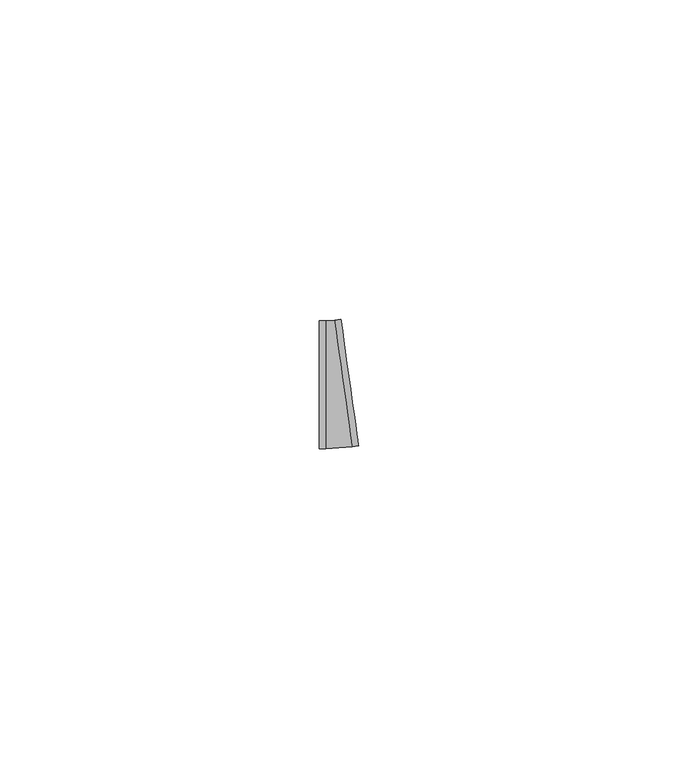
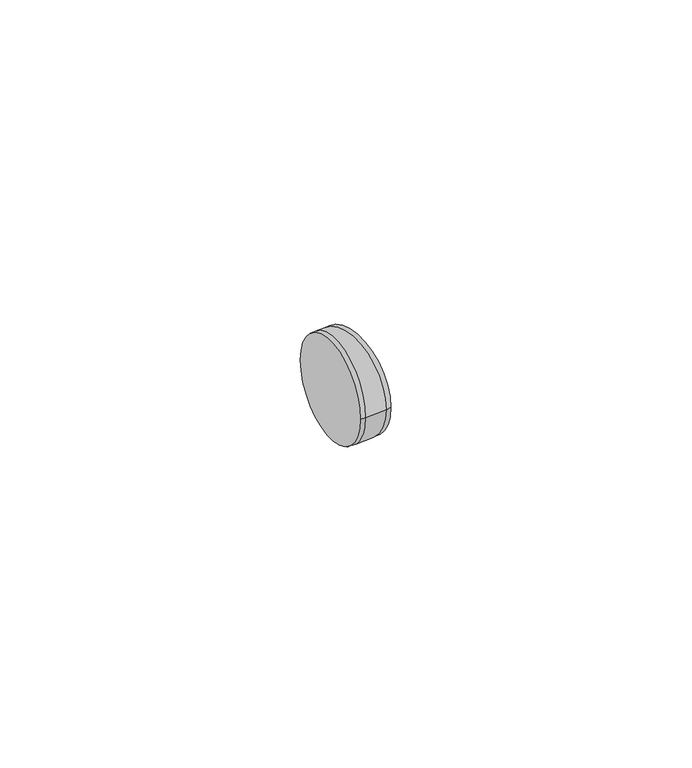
"""IFC4 building model written with IfcOpenShell, lengths in millimetres: cable carrier fitting geometry, ADSK_Поворот_Минимальный размер : Неспецифицируемый."""

from ifc_helpers import new_model, si_unit, point, frame, origin, place, context, project, spatial, circle_curve, ellipse_curve, trimmed, source, transform, mapped, element, save
from ifc_brep_helpers import plane_surface, cylinder_surface, revolved_surface, advanced_brep


def cable_carrier_fitting_f46455be(model_context):
    return source(origin(), model_context, "Body", "AdvancedBrep", [
        advanced_brep(
        [(-2.385439, -10.0, 0.0), (-2.385439, 10.0, 0.0), (-1.385439, -10.0, 0.0), (-1.385439, 10.0, 0.0), (-0.0066164, 10.0955137, 0.0), (2.7510288, -9.7134588, 0.0), (3.7414774, -9.5755766, 0.0), (0.9838322, 10.233396, 0.0)],
        [
            (0, 1, circle_curve(frame((-2.385439, 0.0, 0.0), z_axis=(-1.0, -4.92260399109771e-12, 0.0), x_axis=(-4.92260399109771e-12, 1.0, 0.0)), 10.0)),
            (1, 0, circle_curve(frame((-2.385439, 0.0, 0.0), z_axis=(-1.0, -4.92260399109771e-12, 0.0), x_axis=(-4.92260399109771e-12, 1.0, 0.0)), 10.0)),
            (0, 2),
            (2, 3, circle_curve(frame((-1.385439, 0.0, 0.0), z_axis=(-1.0, -4.92260399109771e-12, 0.0), x_axis=(-4.92260399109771e-12, 1.0, 0.0)), 10.0)),
            (3, 1),
            (3, 2, circle_curve(frame((-1.385439, 0.0, 0.0), z_axis=(-1.0, -4.92260399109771e-12, 0.0), x_axis=(-4.92260399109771e-12, 1.0, 0.0)), 10.0)),
            (4, 3, circle_curve(frame((-1.385439, 20.0, 0.0), z_axis=(0.0, 0.0, -1.0), x_axis=(0.0, -1.0, 0.0)), 10.0)),
            (2, 5, circle_curve(frame((-1.385439, 20.0, 0.0), z_axis=(0.0, 0.0, 1.0), x_axis=(0.0, -1.0, 0.0)), 30.0)),
            (5, 4, circle_curve(frame((1.3722062, 0.1910275, 0.0), z_axis=(-0.9904486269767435, -0.137882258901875, 0.0), x_axis=(-0.137882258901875, 0.9904486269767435, 0.0)), 10.0)),
            (4, 5, circle_curve(frame((1.3722062, 0.1910275, 0.0), z_axis=(-0.9904486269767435, -0.13788225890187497, 0.0), x_axis=(-0.13788225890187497, 0.9904486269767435, 0.0)), 10.0)),
            (6, 7, circle_curve(frame((2.3626548, 0.3289097, 0.0), z_axis=(0.9904486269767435, 0.13788225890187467, 0.0), x_axis=(-0.13788225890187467, 0.9904486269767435, 0.0)), 10.0)),
            (7, 6, circle_curve(frame((2.3626548, 0.3289097, 0.0), z_axis=(0.9904486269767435, 0.13788225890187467, 0.0), x_axis=(-0.13788225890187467, 0.9904486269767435, 0.0)), 10.0)),
            (5, 6),
            (7, 4),
        ],
        [
            plane_surface(frame((-2.385439, 0.0, 0.0), z_axis=(-1.0, -4.92260399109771e-12, 0.0), x_axis=(0.0, 0.0, 1.0))),
            cylinder_surface(frame((-2.385439, 0.0, 0.0), z_axis=(-1.0, -4.92260399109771e-12, 0.0), x_axis=(-4.92260399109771e-12, 1.0, 0.0)), 10.0),
            revolved_surface(trimmed(ellipse_curve(frame((-1.385439, 0.0, 0.0), z_axis=(-1.0, 0.0, 0.0), x_axis=(0.0, 1.0, 0.0)), 10.0, 10.0), [point((-1.385439, -10.0, 0.0))], [point((-1.385439, 10.0, 0.0))], True, "CARTESIAN"), (-1.385439, 20.0, 0.0), (0.0, 0.0, 1.0)),
            revolved_surface(trimmed(ellipse_curve(frame((-1.385439, 0.0, 0.0), z_axis=(-1.0, 0.0, 0.0), x_axis=(0.0, 1.0, 0.0)), 10.0, 10.0), [point((-1.385439, 10.0, 0.0))], [point((-1.385439, -10.0, 0.0))], True, "CARTESIAN"), (-1.385439, 20.0, 0.0), (0.0, 0.0, 1.0)),
            plane_surface(frame((2.3626548, 0.3289097, 0.0), z_axis=(0.9904486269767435, 0.1378822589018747, 0.0), x_axis=(0.0, 0.0, 1.0))),
            cylinder_surface(frame((1.3722062, 0.1910275, 0.0), z_axis=(-0.9904486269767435, -0.13788225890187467, 0.0), x_axis=(-0.13788225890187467, 0.9904486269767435, 0.0)), 10.0),
        ],
        [
            (0, [[1, 2]]),
            (1, [[-1, 3, 4, 5]]),
            (1, [[-2, -5, 6, -3]]),
            (2, [[7, -4, 8, 9]]),
            (3, [[-8, -6, -7, 10]]),
            (4, [[11, 12]]),
            (5, [[-9, 13, -12, 14]]),
            (5, [[-10, -14, -11, -13]]),
        ],
    ),
    ])


if __name__ == "__main__":
    model = new_model("IFC4")
    model_context = context("Model", 3, world=origin())
    ifc_project = project(units=[si_unit("LENGTHUNIT", "METRE", prefix="MILLI")], contexts=[model_context])
    site = spatial("IfcSite", under=ifc_project)
    building = spatial("IfcBuilding", under=site)
    placement = place(None, origin())
    cable_carrier_fitting_shape = cable_carrier_fitting_f46455be(model_context)
    element("IfcCableCarrierFitting", 1, ObjectType="ADSK_Поворот_Минимальный размер : Неспецифицируемый", at=placement, inside=building, context=model_context, shape_type="MappedRepresentation", body=[
        mapped(cable_carrier_fitting_shape, transform((0.0, 0.0, 0.0), x_axis=(1.0, 0.0, 0.0), y_axis=(0.0, 1.0, 0.0), z_axis=(0.0, 0.0, 1.0))),
    ])
    save(model, "model.ifc")
